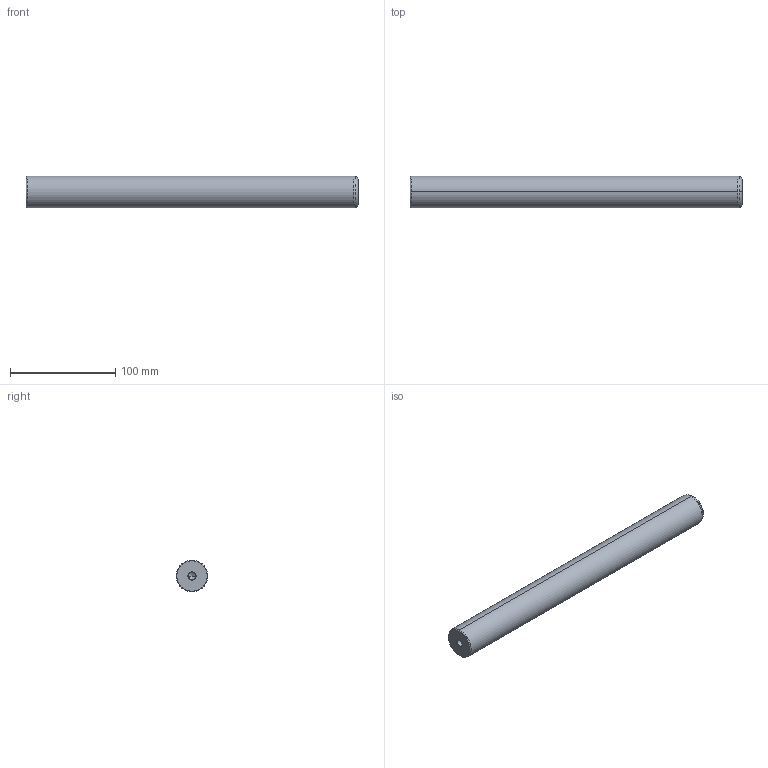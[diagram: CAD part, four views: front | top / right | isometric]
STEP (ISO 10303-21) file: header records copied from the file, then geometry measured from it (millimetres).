
FILE_DESCRIPTION(('CATIA V5 STEP Exchange'),'2;1');
FILE_NAME('C:\Users\Utente\Desktop\IO LAVORO\3D X SITO CF\X SITO\720\720-30x315.stp','2021-01-01T12:28:34+00:00',('none'),('none'),'CATIA Version 5 Release 20 GA (IN-10)','CATIA V5 STEP AP203','none');
FILE_SCHEMA(('CONFIG_CONTROL_DESIGN'));
Length unit declared in the file: millimetre
Products named in the file (1): 720-30x315
Bounding box: 315 x 30 x 30 mm (x, y, z)
Volume: 220629.5 mm3; surface area: 31898.8 mm2
Topology: 1 solids, 1 shells, 22 faces, 62 edges, 40 vertices
Faces by surface type: cone 12, cylinder 6, plane 2, torus 2
Entity records: 806 total; most frequent: CARTESIAN_POINT 229, ORIENTED_EDGE 116, DIRECTION 93, EDGE_CURVE 58, AXIS2_PLACEMENT_3D 54, VERTEX_POINT 40, CIRCLE 31, EDGE_LOOP 24
